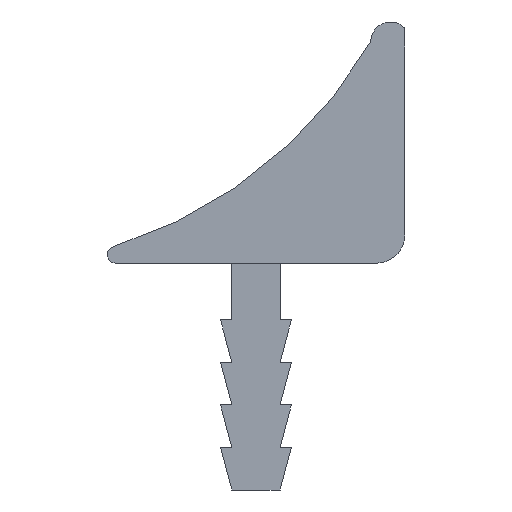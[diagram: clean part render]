
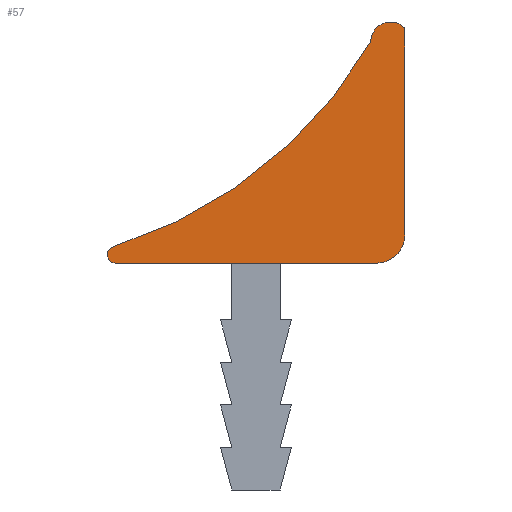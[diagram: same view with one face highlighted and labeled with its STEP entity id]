
A CAD part, left-side view. The second image highlights one B-rep face of the part: STEP entity #57.
In plain terms, the highlighted planar face has unit normal (-1, 0, 0).
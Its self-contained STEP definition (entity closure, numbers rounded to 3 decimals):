
#57 = ADVANCED_FACE( '', ( #134 ), #135, .F. );
#134 = FACE_OUTER_BOUND( '', #229, .T. );
#135 = PLANE( '', #230 );
#229 = EDGE_LOOP( '', ( #328, #329, #330, #331, #332, #333 ) );
#230 = AXIS2_PLACEMENT_3D( '', #334, #335, #336 );
#328 = ORIENTED_EDGE( '', *, *, #594, .F. );
#329 = ORIENTED_EDGE( '', *, *, #595, .F. );
#330 = ORIENTED_EDGE( '', *, *, #596, .F. );
#331 = ORIENTED_EDGE( '', *, *, #597, .F. );
#332 = ORIENTED_EDGE( '', *, *, #598, .F. );
#333 = ORIENTED_EDGE( '', *, *, #599, .T. );
#334 = CARTESIAN_POINT( '', ( -30., 8.923, 23.868 ) );
#335 = DIRECTION( '', ( 1., 0., 0. ) );
#336 = DIRECTION( '', ( 0., 0., -1. ) );
#594 = EDGE_CURVE( '', #709, #710, #711, .T. );
#595 = EDGE_CURVE( '', #712, #709, #713, .T. );
#596 = EDGE_CURVE( '', #714, #712, #715, .T. );
#597 = EDGE_CURVE( '', #716, #714, #717, .T. );
#598 = EDGE_CURVE( '', #718, #716, #719, .T. );
#599 = EDGE_CURVE( '', #718, #710, #720, .T. );
#709 = VERTEX_POINT( '', #876 );
#710 = VERTEX_POINT( '', #877 );
#711 = CIRCLE( '', #878, 0.3 );
#712 = VERTEX_POINT( '', #879 );
#713 = LINE( '', #880, #881 );
#714 = VERTEX_POINT( '', #882 );
#715 = CIRCLE( '', #883, 1. );
#716 = VERTEX_POINT( '', #884 );
#717 = LINE( '', #885, #886 );
#718 = VERTEX_POINT( '', #887 );
#719 = CIRCLE( '', #888, 0.7 );
#720 = CIRCLE( '', #889, 16. );
#876 = CARTESIAN_POINT( '', ( -30., 4.1, 8. ) );
#877 = CARTESIAN_POINT( '', ( -30., 4.162, 8.593 ) );
#878 = AXIS2_PLACEMENT_3D( '', #1086, #1087, #1088 );
#879 = CARTESIAN_POINT( '', ( -30., -5.1, 8. ) );
#880 = CARTESIAN_POINT( '', ( -30., -5.1, 8. ) );
#881 = VECTOR( '', #1089, 1000. );
#882 = CARTESIAN_POINT( '', ( -30., -6.1, 9. ) );
#883 = AXIS2_PLACEMENT_3D( '', #1090, #1091, #1092 );
#884 = CARTESIAN_POINT( '', ( -30., -6.1, 16.3 ) );
#885 = CARTESIAN_POINT( '', ( -30., -6.1, 16.3 ) );
#886 = VECTOR( '', #1093, 1000. );
#887 = CARTESIAN_POINT( '', ( -30., -4.9, 15.81 ) );
#888 = AXIS2_PLACEMENT_3D( '', #1094, #1095, #1096 );
#889 = AXIS2_PLACEMENT_3D( '', #1097, #1098, #1099 );
#1086 = CARTESIAN_POINT( '', ( -30., 4.098, 8.3 ) );
#1087 = DIRECTION( '', ( 1., 0., 0. ) );
#1088 = DIRECTION( '', ( 0., 0., -1. ) );
#1089 = DIRECTION( '', ( 0., 1., 0. ) );
#1090 = CARTESIAN_POINT( '', ( -30., -5.1, 9. ) );
#1091 = DIRECTION( '', ( 1., 0., 0. ) );
#1092 = DIRECTION( '', ( 0., 0., -1. ) );
#1093 = DIRECTION( '', ( 0., 0., -1. ) );
#1094 = CARTESIAN_POINT( '', ( -30., -5.6, 15.81 ) );
#1095 = DIRECTION( '', ( 1., 0., 0. ) );
#1096 = DIRECTION( '', ( 0., 0., -1. ) );
#1097 = CARTESIAN_POINT( '', ( -30., 8.923, 23.868 ) );
#1098 = DIRECTION( '', ( 1., 0., 0. ) );
#1099 = DIRECTION( '', ( 0., 0., -1. ) );
